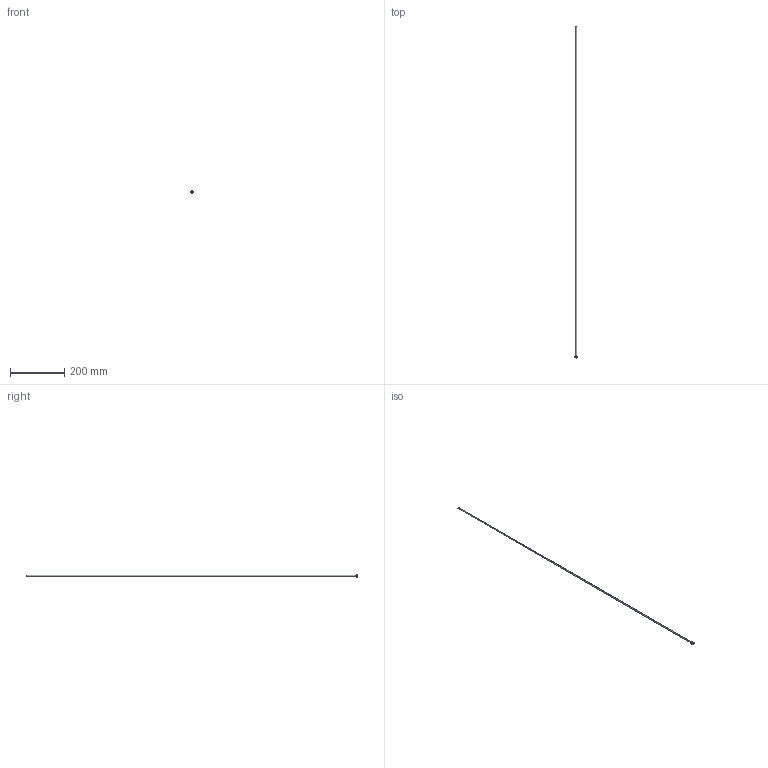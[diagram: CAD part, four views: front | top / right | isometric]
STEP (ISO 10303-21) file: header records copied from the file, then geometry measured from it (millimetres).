
FILE_DESCRIPTION(/* description */ (''),/* implementation_level */ '2;1');
FILE_NAME(/* name */ 'C:/Users/drich/Desktop/PT18-187-48 v1.step',/* time_stamp */ '2019-12-27T15:44:15-06:00',/* author */ (''),/* organization */ (''),/* preprocessor_version */ 'ST-DEVELOPER v18',/* originating_system */ 'Autodesk Translation Framework v8.12.0.6',/* authorisation */ '');
FILE_SCHEMA (('AUTOMOTIVE_DESIGN { 1 0 10303 214 3 1 1 }'));
Length unit declared in the file: inch
Products named in the file (1): PT18-187-48
Bounding box: 9.62 x 1219.2 x 9.62 mm (x, y, z)
Volume: 4497.4 mm3; surface area: 34564.4 mm2
Topology: 1 solids, 1 shells, 19 faces, 48 edges, 34 vertices
Faces by surface type: plane 11, cylinder 4, torus 2, cone 2
Full cylindrical faces by diameter (mm): 4.242 x1, 4.724 x1, 6.35 x1, 9.621 x1
Entity records: 633 total; most frequent: DIRECTION 112, CARTESIAN_POINT 102, ORIENTED_EDGE 96, EDGE_CURVE 48, AXIS2_PLACEMENT_3D 44, VERTEX_POINT 34, CIRCLE 24, EDGE_LOOP 24
